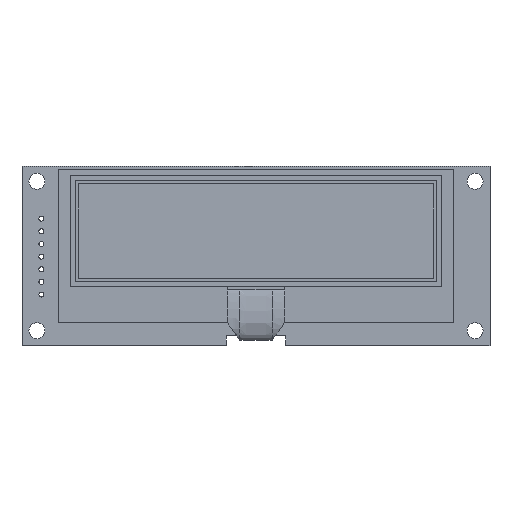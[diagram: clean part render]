
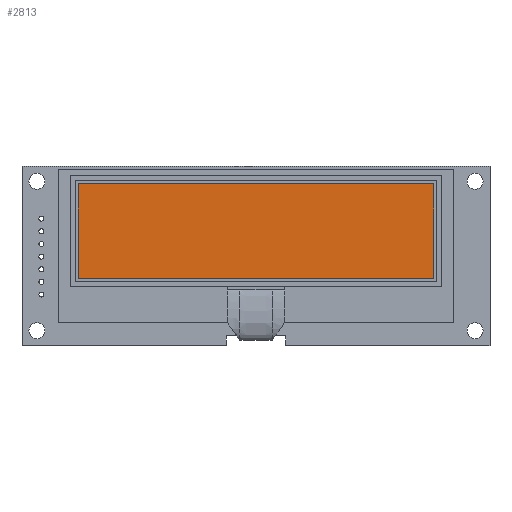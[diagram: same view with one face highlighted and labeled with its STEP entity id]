
A CAD part, top view. The second image highlights one B-rep face of the part: STEP entity #2813.
In plain terms, the highlighted planar face has unit normal (0, 0, 1).
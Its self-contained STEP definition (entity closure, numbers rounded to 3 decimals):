
#2001=DIRECTION('',(0.,-1.,0.));
#2002=VECTOR('',#2001,19.042);
#2003=CARTESIAN_POINT('',(-35.697,14.5,2.3));
#2004=LINE('',#2003,#2002);
#2005=DIRECTION('',(-1.,0.,0.));
#2006=VECTOR('',#2005,71.394);
#2007=CARTESIAN_POINT('',(35.697,14.5,2.3));
#2008=LINE('',#2007,#2006);
#2009=DIRECTION('',(0.,1.,0.));
#2010=VECTOR('',#2009,19.042);
#2011=CARTESIAN_POINT('',(35.697,-4.542,2.3));
#2012=LINE('',#2011,#2010);
#2013=DIRECTION('',(1.,0.,0.));
#2014=VECTOR('',#2013,71.394);
#2015=CARTESIAN_POINT('',(-35.697,-4.542,2.3));
#2016=LINE('',#2015,#2014);
#2266=CARTESIAN_POINT('',(-35.697,14.5,2.3));
#2267=CARTESIAN_POINT('',(-35.697,-4.542,2.3));
#2268=VERTEX_POINT('',#2266);
#2269=VERTEX_POINT('',#2267);
#2270=CARTESIAN_POINT('',(35.697,-4.542,2.3));
#2271=VERTEX_POINT('',#2270);
#2272=CARTESIAN_POINT('',(35.697,14.5,2.3));
#2273=VERTEX_POINT('',#2272);
#2802=CARTESIAN_POINT('',(0.,0.,2.3));
#2803=DIRECTION('',(0.,0.,1.));
#2804=DIRECTION('',(1.,0.,0.));
#2805=AXIS2_PLACEMENT_3D('',#2802,#2803,#2804);
#2806=PLANE('',#2805);
#2807=ORIENTED_EDGE('',*,*,#2754,.F.);
#2808=ORIENTED_EDGE('',*,*,#2769,.F.);
#2809=ORIENTED_EDGE('',*,*,#2783,.F.);
#2810=ORIENTED_EDGE('',*,*,#2796,.F.);
#2811=EDGE_LOOP('',(#2807,#2808,#2809,#2810));
#2812=FACE_OUTER_BOUND('',#2811,.F.);
#2754=EDGE_CURVE('',#2268,#2269,#2004,.T.);
#2769=EDGE_CURVE('',#2273,#2268,#2008,.T.);
#2783=EDGE_CURVE('',#2271,#2273,#2012,.T.);
#2796=EDGE_CURVE('',#2269,#2271,#2016,.T.);
#2813=ADVANCED_FACE('',(#2812),#2806,.T.);
